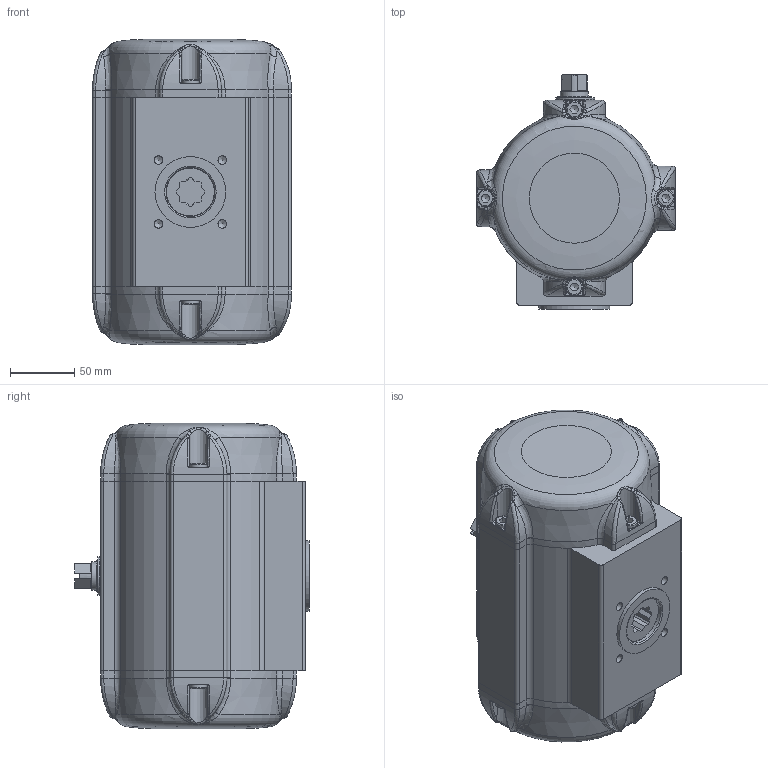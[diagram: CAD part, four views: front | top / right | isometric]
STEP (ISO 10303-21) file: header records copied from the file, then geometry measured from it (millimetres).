
FILE_DESCRIPTION((''),'2;1');
FILE_NAME('C:\Dokumente und Einstellungen\kir\Desktop\STEP IGES\SAF\SAF 25 BR03.stp','2006-12-19T11:13:22',('kir'),(''),'Autodesk Inventor 10','Autodesk Inventor 10','');
FILE_SCHEMA(('AUTOMOTIVE_DESIGN { 1 0 10303 214 1 1 1 1 }'));
Length unit declared in the file: millimetre
Products named in the file (1): ENG-039884
Bounding box: 154.5 x 182 x 237 mm (x, y, z)
Volume: 1089069.5 mm3; surface area: 287948.9 mm2
Topology: 18 solids, 18 shells, 835 faces, 2065 edges, 1268 vertices
Faces by surface type: bspline 320, plane 234, cylinder 197, cone 63, torus 21
Full cylindrical faces by diameter (mm): 2 x2, 6.647 x4, 8 x8, 8.5 x6, 13 x8, 17.8 x2, 18 x1, 20 x1, 20.7 x1, 21.8 x3, 22.1 x1, 27 x1, 30 x2, 33.8 x2, 34 x1, 37.8 x2, 55 x1
Entity records: 61177 total; most frequent: CARTESIAN_POINT 44598, ORIENTED_EDGE 3592, DIRECTION 2906, EDGE_CURVE 1796, AXIS2_PLACEMENT_3D 1200, VERTEX_POINT 1163, EDGE_LOOP 1025, FACE_OUTER_BOUND 833
